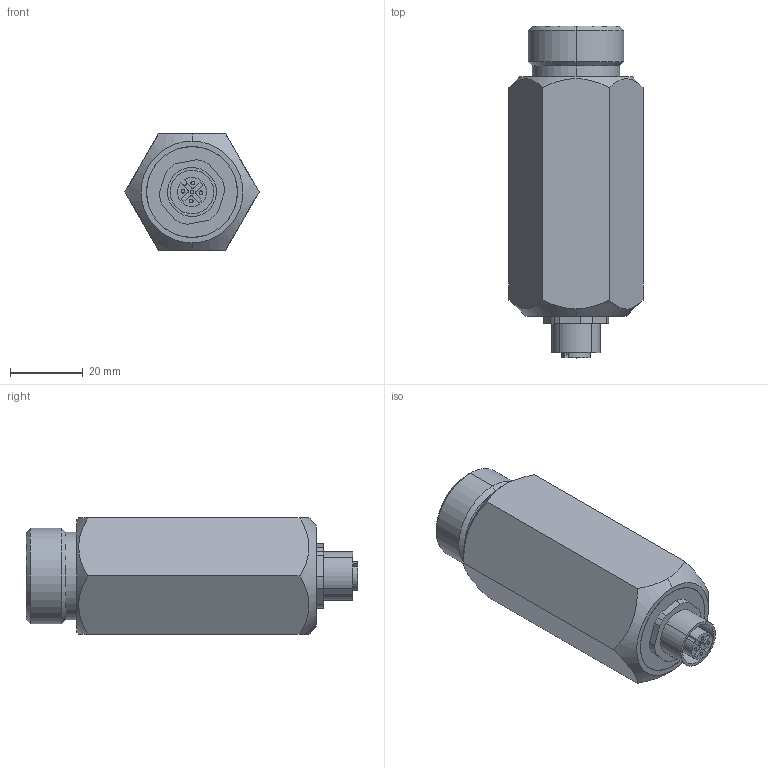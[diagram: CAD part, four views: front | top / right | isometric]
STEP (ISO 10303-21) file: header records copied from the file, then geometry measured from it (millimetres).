
FILE_DESCRIPTION (( 'STEP AP203' ), '1' );
FILE_NAME ('uvcse-sensor.STEP', '2008-07-31T14:12:23', ( 'Benutzer' ), ( '' ), 'SwSTEP 2.0', 'SolidWorks 2007', '' );
FILE_SCHEMA (( 'CONFIG_CONTROL_DESIGN' ));
Length unit declared in the file: millimetre
Products named in the file (6): Sensor_STEP_SE; Fenster_STEP; uvcse-sensor; Sensordeckel_Standard; Flanschdose S763 5pol_Standard; O-Ring_O-Ring 15,0x1,0
Assembly tree (5 placements, depth 2):
  uvcse-sensor
    O-Ring_O-Ring 15,0x1,0
    Sensor_STEP_SE
    Fenster_STEP
    Flanschdose S763 5pol_Standard
    Sensordeckel_Standard
Bounding box: 36.95 x 91.5 x 32 mm (x, y, z)
Volume: 67847.7 mm3; surface area: 14175.5 mm2
Topology: 5 solids, 5 shells, 142 faces, 329 edges, 214 vertices
Faces by surface type: cylinder 72, plane 50, cone 12, torus 4, bspline 4
Entity records: 5027 total; most frequent: CARTESIAN_POINT 1038, DIRECTION 773, ORIENTED_EDGE 658, EDGE_CURVE 329, AXIS2_PLACEMENT_3D 316, VERTEX_POINT 214, CIRCLE 170, EDGE_LOOP 163
